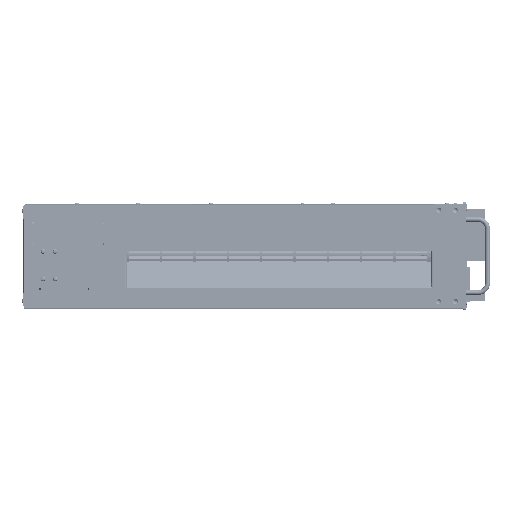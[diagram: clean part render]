
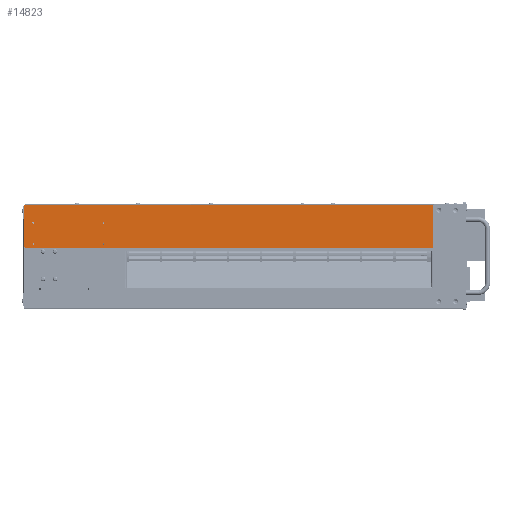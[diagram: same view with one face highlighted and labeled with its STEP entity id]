
A CAD part, left-side view. The second image highlights one B-rep face of the part: STEP entity #14823.
In plain terms, the highlighted planar face has unit normal (-1, 0, 0).
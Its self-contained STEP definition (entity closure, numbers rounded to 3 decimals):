
#14595=CARTESIAN_POINT('Vertex',(-220.5,360.,-67.)) ;
#14598=CARTESIAN_POINT('Line Origine',(-220.5,360.,-33.75)) ;
#14602=CARTESIAN_POINT('Vertex',(-220.5,360.,-0.5)) ;
#14647=CARTESIAN_POINT('Line Origine',(-220.5,360.,-0.5)) ;
#14651=CARTESIAN_POINT('Vertex',(-220.5,-360.,-0.5)) ;
#14676=CARTESIAN_POINT('Axis2P3D Location',(-220.5,-360.,0.077)) ;
#14681=CARTESIAN_POINT('Axis2P3D Location',(-220.5,357.,-67.)) ;
#14685=CARTESIAN_POINT('Vertex',(-220.5,357.,-70.)) ;
#14688=CARTESIAN_POINT('Line Origine',(-220.5,0.,-70.)) ;
#14692=CARTESIAN_POINT('Vertex',(-220.5,-357.,-70.)) ;
#14695=CARTESIAN_POINT('Axis2P3D Location',(-220.5,-357.,-67.)) ;
#14699=CARTESIAN_POINT('Vertex',(-220.5,-360.,-67.)) ;
#14702=CARTESIAN_POINT('Line Origine',(-220.5,-360.,-33.75)) ;
#14715=CARTESIAN_POINT('Axis2P3D Location',(-220.5,230.,-29.)) ;
#14719=CARTESIAN_POINT('Vertex',(-220.5,230.,-30.6)) ;
#14721=CARTESIAN_POINT('Vertex',(-220.5,230.,-27.4)) ;
#14724=CARTESIAN_POINT('Axis2P3D Location',(-220.5,230.,-29.)) ;
#14733=CARTESIAN_POINT('Axis2P3D Location',(-220.5,345.,-64.)) ;
#14737=CARTESIAN_POINT('Vertex',(-220.5,345.,-65.6)) ;
#14739=CARTESIAN_POINT('Vertex',(-220.5,345.,-62.4)) ;
#14742=CARTESIAN_POINT('Axis2P3D Location',(-220.5,345.,-64.)) ;
#14751=CARTESIAN_POINT('Axis2P3D Location',(-220.5,345.,-29.)) ;
#14755=CARTESIAN_POINT('Vertex',(-220.5,345.,-30.6)) ;
#14757=CARTESIAN_POINT('Vertex',(-220.5,345.,-27.4)) ;
#14760=CARTESIAN_POINT('Axis2P3D Location',(-220.5,345.,-29.)) ;
#14769=CARTESIAN_POINT('Axis2P3D Location',(-220.5,230.,-64.)) ;
#14773=CARTESIAN_POINT('Vertex',(-220.5,230.,-65.6)) ;
#14775=CARTESIAN_POINT('Vertex',(-220.5,230.,-62.4)) ;
#14778=CARTESIAN_POINT('Axis2P3D Location',(-220.5,230.,-64.)) ;
#14787=CARTESIAN_POINT('Axis2P3D Location',(-220.5,-347.5,-8.5)) ;
#14791=CARTESIAN_POINT('Vertex',(-220.5,-347.5,-10.1)) ;
#14793=CARTESIAN_POINT('Vertex',(-220.5,-347.5,-6.9)) ;
#14796=CARTESIAN_POINT('Axis2P3D Location',(-220.5,-347.5,-8.5)) ;
#14805=CARTESIAN_POINT('Axis2P3D Location',(-220.5,-320.,-8.5)) ;
#14809=CARTESIAN_POINT('Vertex',(-220.5,-320.,-10.1)) ;
#14811=CARTESIAN_POINT('Vertex',(-220.5,-320.,-6.9)) ;
#14814=CARTESIAN_POINT('Axis2P3D Location',(-220.5,-320.,-8.5)) ;
#14599=DIRECTION('Vector Direction',(0.,0.,-1.)) ;
#14648=DIRECTION('Vector Direction',(0.,1.,0.)) ;
#14677=DIRECTION('Axis2P3D Direction',(-1.,0.,0.)) ;
#14678=DIRECTION('Axis2P3D XDirection',(0.,0.,1.)) ;
#14682=DIRECTION('Axis2P3D Direction',(-1.,0.,0.)) ;
#14689=DIRECTION('Vector Direction',(0.,-1.,0.)) ;
#14696=DIRECTION('Axis2P3D Direction',(-1.,0.,0.)) ;
#14703=DIRECTION('Vector Direction',(0.,0.,1.)) ;
#14716=DIRECTION('Axis2P3D Direction',(-1.,0.,0.)) ;
#14725=DIRECTION('Axis2P3D Direction',(-1.,0.,0.)) ;
#14734=DIRECTION('Axis2P3D Direction',(-1.,0.,0.)) ;
#14743=DIRECTION('Axis2P3D Direction',(-1.,0.,0.)) ;
#14752=DIRECTION('Axis2P3D Direction',(-1.,0.,0.)) ;
#14761=DIRECTION('Axis2P3D Direction',(-1.,0.,0.)) ;
#14770=DIRECTION('Axis2P3D Direction',(-1.,0.,0.)) ;
#14779=DIRECTION('Axis2P3D Direction',(-1.,0.,0.)) ;
#14788=DIRECTION('Axis2P3D Direction',(-1.,0.,0.)) ;
#14797=DIRECTION('Axis2P3D Direction',(-1.,0.,0.)) ;
#14806=DIRECTION('Axis2P3D Direction',(-1.,0.,0.)) ;
#14815=DIRECTION('Axis2P3D Direction',(-1.,0.,0.)) ;
#14679=AXIS2_PLACEMENT_3D('Plane Axis2P3D',#14676,#14677,#14678) ;
#14683=AXIS2_PLACEMENT_3D('Circle Axis2P3D',#14681,#14682,$) ;
#14697=AXIS2_PLACEMENT_3D('Circle Axis2P3D',#14695,#14696,$) ;
#14717=AXIS2_PLACEMENT_3D('Circle Axis2P3D',#14715,#14716,$) ;
#14726=AXIS2_PLACEMENT_3D('Circle Axis2P3D',#14724,#14725,$) ;
#14735=AXIS2_PLACEMENT_3D('Circle Axis2P3D',#14733,#14734,$) ;
#14744=AXIS2_PLACEMENT_3D('Circle Axis2P3D',#14742,#14743,$) ;
#14753=AXIS2_PLACEMENT_3D('Circle Axis2P3D',#14751,#14752,$) ;
#14762=AXIS2_PLACEMENT_3D('Circle Axis2P3D',#14760,#14761,$) ;
#14771=AXIS2_PLACEMENT_3D('Circle Axis2P3D',#14769,#14770,$) ;
#14780=AXIS2_PLACEMENT_3D('Circle Axis2P3D',#14778,#14779,$) ;
#14789=AXIS2_PLACEMENT_3D('Circle Axis2P3D',#14787,#14788,$) ;
#14798=AXIS2_PLACEMENT_3D('Circle Axis2P3D',#14796,#14797,$) ;
#14807=AXIS2_PLACEMENT_3D('Circle Axis2P3D',#14805,#14806,$) ;
#14816=AXIS2_PLACEMENT_3D('Circle Axis2P3D',#14814,#14815,$) ;
#14708=ORIENTED_EDGE('',*,*,#14604,.T.) ;
#14709=ORIENTED_EDGE('',*,*,#14687,.T.) ;
#14710=ORIENTED_EDGE('',*,*,#14694,.T.) ;
#14711=ORIENTED_EDGE('',*,*,#14701,.T.) ;
#14712=ORIENTED_EDGE('',*,*,#14706,.T.) ;
#14713=ORIENTED_EDGE('',*,*,#14653,.T.) ;
#14730=ORIENTED_EDGE('',*,*,#14723,.F.) ;
#14731=ORIENTED_EDGE('',*,*,#14728,.F.) ;
#14748=ORIENTED_EDGE('',*,*,#14741,.F.) ;
#14749=ORIENTED_EDGE('',*,*,#14746,.F.) ;
#14766=ORIENTED_EDGE('',*,*,#14759,.F.) ;
#14767=ORIENTED_EDGE('',*,*,#14764,.F.) ;
#14784=ORIENTED_EDGE('',*,*,#14777,.F.) ;
#14785=ORIENTED_EDGE('',*,*,#14782,.F.) ;
#14802=ORIENTED_EDGE('',*,*,#14795,.F.) ;
#14803=ORIENTED_EDGE('',*,*,#14800,.F.) ;
#14820=ORIENTED_EDGE('',*,*,#14813,.F.) ;
#14821=ORIENTED_EDGE('',*,*,#14818,.F.) ;
#14732=FACE_BOUND('',#14729,.T.) ;
#14750=FACE_BOUND('',#14747,.T.) ;
#14768=FACE_BOUND('',#14765,.T.) ;
#14786=FACE_BOUND('',#14783,.T.) ;
#14804=FACE_BOUND('',#14801,.T.) ;
#14822=FACE_BOUND('',#14819,.T.) ;
#14600=VECTOR('Line Direction',#14599,1.) ;
#14649=VECTOR('Line Direction',#14648,1.) ;
#14690=VECTOR('Line Direction',#14689,1.) ;
#14704=VECTOR('Line Direction',#14703,1.) ;
#14823=ADVANCED_FACE('28',(#14714,#14732,#14750,#14768,#14786,#14804,#14822),#14680,.T.) ;
#14684=CIRCLE('generated circle',#14683,3.) ;
#14698=CIRCLE('generated circle',#14697,3.) ;
#14718=CIRCLE('generated circle',#14717,1.6) ;
#14727=CIRCLE('generated circle',#14726,1.6) ;
#14736=CIRCLE('generated circle',#14735,1.6) ;
#14745=CIRCLE('generated circle',#14744,1.6) ;
#14754=CIRCLE('generated circle',#14753,1.6) ;
#14763=CIRCLE('generated circle',#14762,1.6) ;
#14772=CIRCLE('generated circle',#14771,1.6) ;
#14781=CIRCLE('generated circle',#14780,1.6) ;
#14790=CIRCLE('generated circle',#14789,1.6) ;
#14799=CIRCLE('generated circle',#14798,1.6) ;
#14808=CIRCLE('generated circle',#14807,1.6) ;
#14817=CIRCLE('generated circle',#14816,1.6) ;
#14604=EDGE_CURVE('',#14603,#14596,#14601,.T.) ;
#14653=EDGE_CURVE('',#14652,#14603,#14650,.T.) ;
#14687=EDGE_CURVE('',#14596,#14686,#14684,.T.) ;
#14694=EDGE_CURVE('',#14686,#14693,#14691,.T.) ;
#14701=EDGE_CURVE('',#14693,#14700,#14698,.T.) ;
#14706=EDGE_CURVE('',#14700,#14652,#14705,.T.) ;
#14723=EDGE_CURVE('',#14720,#14722,#14718,.T.) ;
#14728=EDGE_CURVE('',#14722,#14720,#14727,.T.) ;
#14741=EDGE_CURVE('',#14738,#14740,#14736,.T.) ;
#14746=EDGE_CURVE('',#14740,#14738,#14745,.T.) ;
#14759=EDGE_CURVE('',#14756,#14758,#14754,.T.) ;
#14764=EDGE_CURVE('',#14758,#14756,#14763,.T.) ;
#14777=EDGE_CURVE('',#14774,#14776,#14772,.T.) ;
#14782=EDGE_CURVE('',#14776,#14774,#14781,.T.) ;
#14795=EDGE_CURVE('',#14792,#14794,#14790,.T.) ;
#14800=EDGE_CURVE('',#14794,#14792,#14799,.T.) ;
#14813=EDGE_CURVE('',#14810,#14812,#14808,.T.) ;
#14818=EDGE_CURVE('',#14812,#14810,#14817,.T.) ;
#14707=EDGE_LOOP('',(#14708,#14709,#14710,#14711,#14712,#14713)) ;
#14729=EDGE_LOOP('',(#14730,#14731)) ;
#14747=EDGE_LOOP('',(#14748,#14749)) ;
#14765=EDGE_LOOP('',(#14766,#14767)) ;
#14783=EDGE_LOOP('',(#14784,#14785)) ;
#14801=EDGE_LOOP('',(#14802,#14803)) ;
#14819=EDGE_LOOP('',(#14820,#14821)) ;
#14714=FACE_OUTER_BOUND('',#14707,.T.) ;
#14601=LINE('Line',#14598,#14600) ;
#14650=LINE('Line',#14647,#14649) ;
#14691=LINE('Line',#14688,#14690) ;
#14705=LINE('Line',#14702,#14704) ;
#14680=PLANE('',#14679) ;
#14596=VERTEX_POINT('',#14595) ;
#14603=VERTEX_POINT('',#14602) ;
#14652=VERTEX_POINT('',#14651) ;
#14686=VERTEX_POINT('',#14685) ;
#14693=VERTEX_POINT('',#14692) ;
#14700=VERTEX_POINT('',#14699) ;
#14720=VERTEX_POINT('',#14719) ;
#14722=VERTEX_POINT('',#14721) ;
#14738=VERTEX_POINT('',#14737) ;
#14740=VERTEX_POINT('',#14739) ;
#14756=VERTEX_POINT('',#14755) ;
#14758=VERTEX_POINT('',#14757) ;
#14774=VERTEX_POINT('',#14773) ;
#14776=VERTEX_POINT('',#14775) ;
#14792=VERTEX_POINT('',#14791) ;
#14794=VERTEX_POINT('',#14793) ;
#14810=VERTEX_POINT('',#14809) ;
#14812=VERTEX_POINT('',#14811) ;
